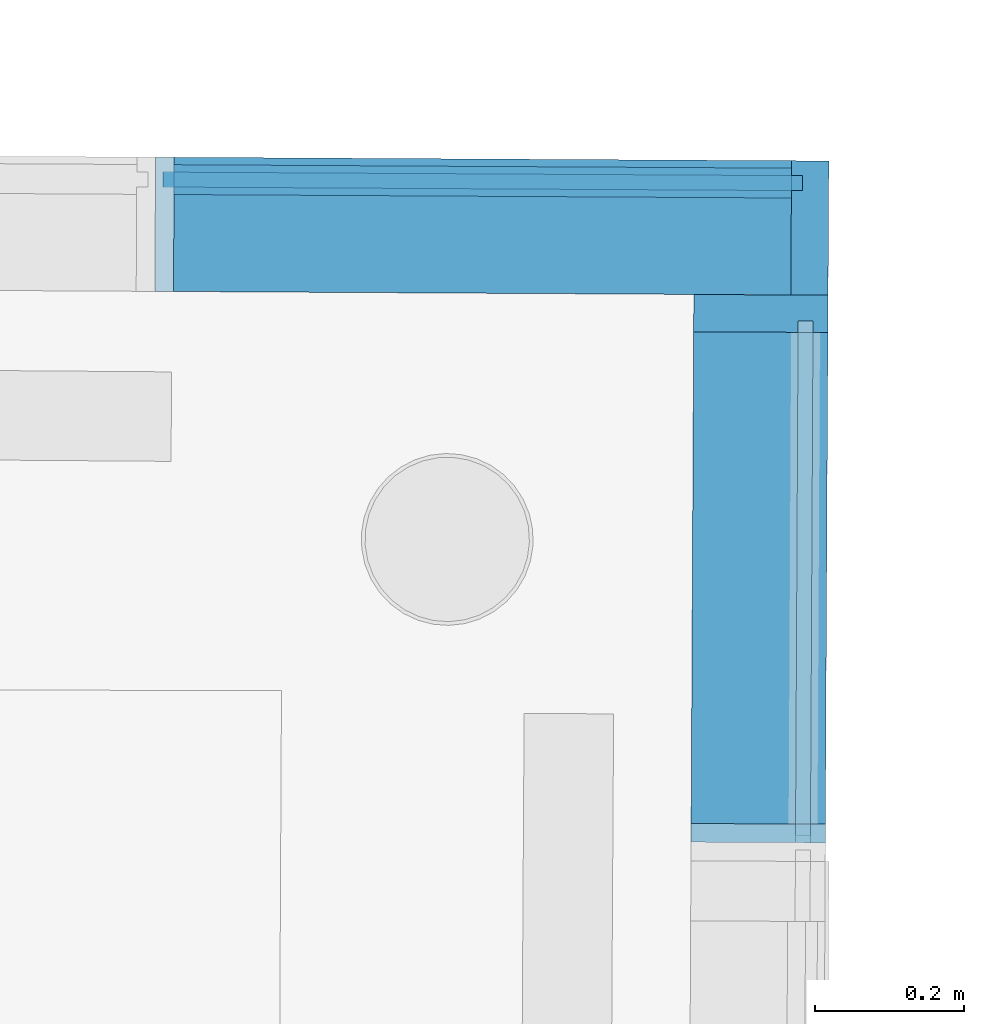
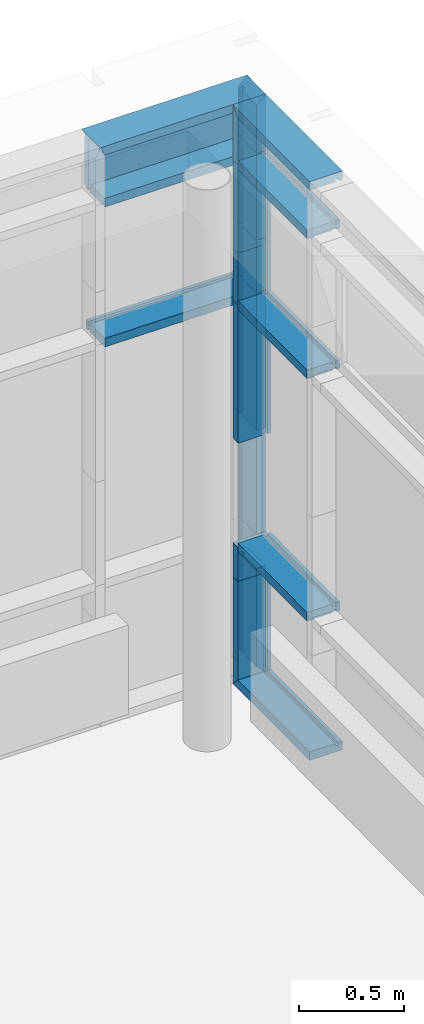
# One storey, part 185 of 196: 22 building element parts, 2 elements without a shape of their own.
"""IFC2X3 building model written with IfcOpenShell, lengths in metres."""

import ifcopenshell
import ifcopenshell.guid

model = None  # the IFC model being written
_history = None  # IfcOwnerHistory: only IFC2X3 demands one
_inside = {}  # id of a spatial element -> (the spatial element, [elements in it])
_under = {}  # id of a project, library or spatial element -> (it, [spatial elements below it])
_declared = {}  # id of a project -> (the project, [libraries it declares])
_typed = {}  # id of a type object -> (the type object, [elements of that type])
_made_of = {}  # id of a material, layer set ... -> (it, [elements and type objects made of it])


def new_model(schema):
    """Start an empty IFC model of exactly this schema.

    Asked for "IFC4X3", IfcOpenShell would pick the latest addendum, in which some entities
    have other attributes; the version numbers below select the first issue.
    IFC2X3 requires an IfcOwnerHistory on every rooted entity: one is made here for all.
    """
    global model, _history
    if schema == "IFC4X3":
        model = ifcopenshell.file(schema_version=(4, 3, 0, 0))
    else:
        model = ifcopenshell.file(schema=schema)
    _inside.clear()
    _under.clear()
    _declared.clear()
    _typed.clear()
    _made_of.clear()
    _history = None
    if model.schema == "IFC2X3":
        org = make("IfcOrganization", Name="unknown")
        user = make(
            "IfcPersonAndOrganization",
            ThePerson=make("IfcPerson", FamilyName="unknown"),
            TheOrganization=org,
        )
        app = make(
            "IfcApplication",
            ApplicationDeveloper=org,
            Version="unknown",
            ApplicationFullName="unknown",
            ApplicationIdentifier="unknown",
        )
        _history = make(
            "IfcOwnerHistory",
            OwningUser=user,
            OwningApplication=app,
            ChangeAction="ADDED",
            CreationDate=0,
        )
    return model


def make(cls, **values):
    """One entity of the class cls with the attributes given. An attribute that is None is left unset."""
    return model.create_entity(
        cls, **{name: value for name, value in values.items() if value is not None}
    )


def entity(cls, *values):
    """Any entity or typed value of the class cls, its attributes in the order of the schema. None: left unset."""
    e = model.create_entity(cls)
    for i, value in enumerate(values):
        if value is not None:
            e[i] = value
    return e


def rooted(cls, **values):
    """An entity with a GlobalId (a new one), such as an element, a storey or a relation."""
    return make(cls, GlobalId=ifcopenshell.guid.new(), OwnerHistory=_history, **values)


def si_unit(unit_type, name, prefix=None):
    """IfcSIUnit, for example si_unit("LENGTHUNIT", "METRE", prefix="MILLI")."""
    return make("IfcSIUnit", UnitType=unit_type, Prefix=prefix, Name=name)


def converted_unit(unit_type, name, factor, base, dimensions=None, offset=None):
    """IfcConversionBasedUnit, such as the inch: factor (a typed value) times the base unit."""
    return make(
        "IfcConversionBasedUnit"
        if offset is None
        else "IfcConversionBasedUnitWithOffset",
        ConversionOffset=offset,
        Dimensions=None
        if dimensions is None
        else entity("IfcDimensionalExponents", *dimensions),
        UnitType=unit_type,
        Name=name,
        ConversionFactor=make(
            "IfcMeasureWithUnit", ValueComponent=factor, UnitComponent=base
        ),
    )


def derived_unit(unit_type, elements):
    """IfcDerivedUnit: a product of units, each with its exponent."""
    return make(
        "IfcDerivedUnit",
        Elements=[
            make("IfcDerivedUnitElement", Unit=unit, Exponent=power)
            for unit, power in elements
        ],
        UnitType=unit_type,
    )


def money_unit(currency):
    """IfcMonetaryUnit."""
    return make("IfcMonetaryUnit", Currency=currency)


def assignment(units):
    """IfcUnitAssignment: the units of a project."""
    return None if units is None else make("IfcUnitAssignment", Units=units)


def point(xyz):
    """IfcCartesianPoint."""
    return None if xyz is None else make("IfcCartesianPoint", Coordinates=xyz)


def direction(xyz):
    """IfcDirection."""
    return None if xyz is None else make("IfcDirection", DirectionRatios=xyz)


def frame(location, z_axis=None, x_axis=None):
    """IfcAxis2Placement3D, a coordinate frame: its origin and axes. An axis left out is left unset."""
    return make(
        "IfcAxis2Placement3D",
        Location=point(location),
        Axis=direction(z_axis),
        RefDirection=direction(x_axis),
    )


def origin_with_axes():
    """The frame at (0, 0, 0) with the z axis (0, 0, 1) and the x axis (1, 0, 0) written out."""
    return frame((0.0, 0.0, 0.0), z_axis=(0.0, 0.0, 1.0), x_axis=(1.0, 0.0, 0.0))


def place(relative_to, where):
    """IfcLocalPlacement: puts the frame where relative to a parent placement (None: the world)."""
    return make(
        "IfcLocalPlacement", PlacementRelTo=relative_to, RelativePlacement=where
    )


def context(
    kind, dimensions, precision=None, world=None, true_north=None, identifier=None
):
    """IfcGeometricRepresentationContext, for example the 3D "Model" context."""
    return make(
        "IfcGeometricRepresentationContext",
        ContextIdentifier=identifier,
        ContextType=kind,
        CoordinateSpaceDimension=dimensions,
        Precision=precision,
        WorldCoordinateSystem=world,
        TrueNorth=true_north,
    )


def subcontext(parent, identifier, kind, view, scale=None):
    """IfcGeometricRepresentationSubContext, for example "Body" below "Model"."""
    return make(
        "IfcGeometricRepresentationSubContext",
        ContextIdentifier=identifier,
        ContextType=kind,
        ParentContext=parent,
        TargetScale=scale,
        TargetView=view,
    )


def project(units=None, contexts=None):
    """IfcProject with its units and contexts."""
    return rooted(
        "IfcProject",
        Name="project",
        RepresentationContexts=contexts,
        UnitsInContext=assignment(units),
    )


def spatial(cls, under=None, at=None, **own):
    """A site, building, storey or space (cls), placed at a placement, below another one or the project."""
    s = rooted(cls, ObjectPlacement=at, **own)
    if under is not None:
        _under.setdefault(under.id(), (under, []))[1].append(s)
    return s


def faces_of(points, faces, orient=None, outer=None):
    """IfcFace entities. A face is a list of loops; a loop is a list of indices into points, from 0.

    orient and outer hold one flag for each loop. By default every Orientation is true, the
    first loop of a face is its IfcFaceOuterBound and the others are IfcFaceBound.
    """
    made = []
    for i, loops in enumerate(faces):
        bounds = []
        for j, loop in enumerate(loops):
            is_outer = j == 0 if outer is None else outer[i][j]
            bounds.append(
                make(
                    "IfcFaceOuterBound" if is_outer else "IfcFaceBound",
                    Bound=make("IfcPolyLoop", Polygon=[points[k] for k in loop]),
                    Orientation=True if orient is None else orient[i][j],
                )
            )
        made.append(make("IfcFace", Bounds=bounds))
    return made


def faceted_brep(points, faces, orient=None, outer=None, voids=None):
    """IfcFacetedBrep: a solid bounded by flat faces; with voids (closed shells), ...WithVoids."""
    shared = [point(p) for p in points]
    hull = make("IfcClosedShell", CfsFaces=faces_of(shared, faces, orient, outer))
    if voids is None:
        return make("IfcFacetedBrep", Outer=hull)
    return make(
        "IfcFacetedBrepWithVoids",
        Outer=hull,
        Voids=[
            make(cls, CfsFaces=faces_of(shared, fs, o, b)) for cls, fs, o, b in voids
        ],
    )


def shape(context_of_items, identifier, shape_type, items):
    """IfcShapeRepresentation: the items that make up one representation, for example the "Body"."""
    return make(
        "IfcShapeRepresentation",
        ContextOfItems=context_of_items,
        RepresentationIdentifier=identifier,
        RepresentationType=shape_type,
        Items=items,
    )


def material(Name=None, Category=None):
    """IfcMaterial."""
    return make("IfcMaterial", Name=Name, Category=Category)


def made_of(thing, what):
    """Note that an element or type object is made of a material, layer set ...; save() writes the relation."""
    if what is not None:
        _made_of.setdefault(what.id(), (what, []))[1].append(thing)
    return thing


def type_object(cls, material=None, **own):
    """A type object (cls), such as IfcWallType, which elements share."""
    return made_of(rooted(cls, **own), material)


def element(
    cls,
    number,
    at=None,
    inside=None,
    cuts=None,
    type_object=None,
    material=None,
    context=None,
    identifier="Body",
    shape_type=None,
    held_by="IfcProductDefinitionShape",
    body=None,
    shapes=None,
    **own,
):
    """One element of the class cls, such as IfcWall. Its Tag is "e" and its number.

    at: its placement. inside: the storey or other place that contains it. cuts: it is an
    opening in that element (IfcRelVoidsElement). A single representation is given by context,
    identifier, shape_type and body (its items); several are given by shapes. held_by: the class
    of the entity that holds the representations. save() writes the other relations.
    """
    e = rooted(cls, Tag="e%d" % number, ObjectPlacement=at, **own)
    if body is not None:
        shapes = [shape(context, identifier, shape_type, body)]
    if shapes is not None:
        e.Representation = make(held_by, Representations=shapes)
    if inside is not None:
        _inside.setdefault(inside.id(), (inside, []))[1].append(e)
    if cuts is not None:
        rooted(
            "IfcRelVoidsElement", RelatingBuildingElement=cuts, RelatedOpeningElement=e
        )
    if type_object is not None:
        _typed.setdefault(type_object.id(), (type_object, []))[1].append(e)
    return made_of(e, material)


def aggregate(whole, parts):
    """IfcRelAggregates: a whole, such as a stair, and the parts it consists of."""
    return rooted("IfcRelAggregates", RelatingObject=whole, RelatedObjects=parts)


def save(model, path):
    """Write the relations noted so far, then the file.

    IfcRelAggregates (storeys below a building ...), IfcRelContainedInSpatialStructure (elements
    in a storey), IfcRelDefinesByType, IfcRelAssociatesMaterial and IfcRelDeclares: one each for
    every whole, place, type object, material and project.
    """
    for whole, parts in _under.values():
        aggregate(whole, parts)
    for where, things in _inside.values():
        rooted(
            "IfcRelContainedInSpatialStructure",
            RelatedElements=things,
            RelatingStructure=where,
        )
    for kind, things in _typed.values():
        rooted("IfcRelDefinesByType", RelatedObjects=things, RelatingType=kind)
    for what, things in _made_of.values():
        rooted("IfcRelAssociatesMaterial", RelatedObjects=things, RelatingMaterial=what)
    for by, libraries in _declared.values():
        rooted("IfcRelDeclares", RelatingContext=by, RelatedDefinitions=libraries)
    model.write(path)


model = new_model("IFC2X3")

# Units and contexts
model_context = context("Model", 3, precision=1e-05, world=origin_with_axes(), true_north=direction((0.0, 1.0)))
body_context = subcontext(model_context, "Body", "Model", "MODEL_VIEW")
ifc_project = project(units=[si_unit("LENGTHUNIT", "METRE"), si_unit("AREAUNIT", "SQUARE_METRE"), si_unit("VOLUMEUNIT", "CUBIC_METRE"), converted_unit("PLANEANGLEUNIT", "DEGREE", entity("IfcPlaneAngleMeasure", 0.0174532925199), si_unit("PLANEANGLEUNIT", "RADIAN"), dimensions=[0, 0, 0, 0, 0, 0, 0]), money_unit("EUR"), converted_unit("TIMEUNIT", "Year", entity("IfcTimeMeasure", 31556926.0), si_unit("TIMEUNIT", "SECOND"), dimensions=[0, 0, 1, 0, 0, 0, 0]), si_unit("MASSUNIT", "GRAM", prefix="KILO"), si_unit("THERMODYNAMICTEMPERATUREUNIT", "DEGREE_CELSIUS"), si_unit("LUMINOUSINTENSITYUNIT", "LUMEN"), si_unit("ENERGYUNIT", "JOULE", prefix="MEGA"), derived_unit("THERMALCONDUCTANCEUNIT", [(si_unit("POWERUNIT", "WATT"), 1), (si_unit("LENGTHUNIT", "METRE"), -1), (si_unit("THERMODYNAMICTEMPERATUREUNIT", "KELVIN"), -1)]), derived_unit("SPECIFICHEATCAPACITYUNIT", [(si_unit("ENERGYUNIT", "JOULE"), 1), (si_unit("MASSUNIT", "GRAM", prefix="KILO"), -1), (si_unit("THERMODYNAMICTEMPERATUREUNIT", "KELVIN"), -1)]), derived_unit("MASSDENSITYUNIT", [(si_unit("MASSUNIT", "GRAM", prefix="KILO"), 1), (si_unit("VOLUMEUNIT", "CUBIC_METRE"), -1)])], contexts=[model_context])

# Site, building, storey
site_placement = place(None, origin_with_axes())
site = spatial("IfcSite", under=ifc_project, at=site_placement, Name="Gelände", CompositionType="ELEMENT")
building_placement = place(site_placement, origin_with_axes())
building = spatial("IfcBuilding", under=site, at=building_placement, Name="Gebäude", CompositionType="ELEMENT")
storey_placement = place(building_placement, frame((0.0, 0.0, -3.0), z_axis=(0.0, 0.0, 1.0), x_axis=(1.0, 0.0, 0.0)))
storey = spatial("IfcBuildingStorey", under=building, at=storey_placement, Name="KELLERGESCHOSS", CompositionType="ELEMENT", Elevation=-3.0)

# Proxy, building element parts
building_element_proxy_type = type_object("IfcBuildingElementProxyType", Name="Fassadentyp", PredefinedType="NOTDEFINED")
proxy_1_placement = place(storey_placement, frame((9.16160365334, 37.7476945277, 0.610000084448), z_axis=(0.0, 0.0, 1.0), x_axis=(1.0, 0.0, 0.0)))
proxy_1 = element("IfcBuildingElementProxy", 1, at=proxy_1_placement, inside=storey, type_object=building_element_proxy_type, Name="Fassade-002")
ifc_material_1 = material(Name="53_Metall, Aluminium")
building_element_part_1_placement = place(proxy_1_placement, origin_with_axes())
building_element_part_1 = element("IfcBuildingElementPart", 2, at=building_element_part_1_placement, material=ifc_material_1, Name="53_Metall, Aluminium", context=body_context, shape_type="Brep", body=[
    faceted_brep([(0.0301624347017, 7.92289881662, 3.31499994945), (0.0300863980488, 7.90789900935, 3.29999994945), (-0.109911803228, 7.90860868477, 3.29999994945), (-0.109658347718, 7.95860804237, 3.34999994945), (0.0703393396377, 7.95769560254, 3.34999994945), (0.0700858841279, 7.90769624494, 3.29999994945), (0.0500861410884, 7.90779762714, 3.29999994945), (0.0501621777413, 7.92279743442, 3.31499994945), (0.0266172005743, 7.22352783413, 3.31499994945), (0.0266172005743, 7.22352783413, 3.29999994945), (-0.113381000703, 7.22423750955, 3.29999994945), (-0.113381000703, 7.22423750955, 3.34999994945), (0.0666166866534, 7.22332506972, 3.34999994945), (0.0666166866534, 7.22332506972, 3.29999994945), (0.0466169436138, 7.22342645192, 3.29999994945), (0.0466169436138, 7.22342645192, 3.31499994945)], [[[0, 1, 2, 3, 4, 5, 6, 7]], [[0, 8, 9, 1]], [[9, 10, 2, 1]], [[10, 11, 3, 2]], [[11, 12, 4, 3]], [[12, 13, 5, 4]], [[6, 5, 13, 14]], [[14, 15, 7, 6]], [[7, 15, 8, 0]], [[8, 15, 14, 13, 12, 11, 10, 9]]]),
])
building_element_part_2_placement = place(proxy_1_placement, origin_with_axes())
building_element_part_2 = element("IfcBuildingElementPart", 3, at=building_element_part_2_placement, material=ifc_material_1, Name="53_Metall, Aluminium", context=body_context, shape_type="Brep", body=[
    faceted_brep([(0.0300863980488, 7.90789900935, 0.807169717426), (0.0300863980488, 7.90789900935, 0.792169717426), (-0.109911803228, 7.90860868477, 0.792169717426), (-0.109911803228, 7.90860868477, 0.842169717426), (0.0300863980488, 7.90789900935, 0.842169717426), (0.0300863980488, 7.90789900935, 0.827169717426), (0.0500861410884, 7.90779762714, 0.827169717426), (0.0500861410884, 7.90779762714, 0.842169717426), (0.0700858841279, 7.90769624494, 0.842169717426), (0.0700858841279, 7.90769624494, 0.792169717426), (0.0500861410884, 7.90779762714, 0.792169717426), (0.0500861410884, 7.90779762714, 0.807169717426), (0.0267439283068, 7.24852750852, 0.807169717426), (0.0267439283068, 7.24852750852, 0.792169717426), (-0.113254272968, 7.24923718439, 0.792169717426), (-0.113254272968, 7.24923718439, 0.842169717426), (0.0267439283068, 7.24852750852, 0.842169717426), (0.0267439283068, 7.24852750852, 0.827169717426), (0.0467436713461, 7.24842612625, 0.827169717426), (0.0467436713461, 7.24842612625, 0.842169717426), (0.0667434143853, 7.24832474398, 0.842169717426), (0.0667434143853, 7.24832474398, 0.792169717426), (0.0467436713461, 7.24842612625, 0.792169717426), (0.0467436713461, 7.24842612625, 0.807169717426)], [[[0, 1, 2, 3, 4, 5, 6, 7, 8, 9, 10, 11]], [[1, 0, 12, 13]], [[1, 13, 14, 2]], [[2, 14, 15, 3]], [[4, 3, 15, 16]], [[4, 16, 17, 5]], [[5, 17, 18, 6]], [[7, 6, 18, 19]], [[19, 20, 8, 7]], [[8, 20, 21, 9]], [[22, 10, 9, 21]], [[11, 10, 22, 23]], [[0, 11, 23, 12]], [[23, 22, 21, 20, 19, 18, 17, 16, 15, 14, 13, 12]]]),
])
building_element_part_3_placement = place(proxy_1_placement, origin_with_axes())
building_element_part_3 = element("IfcBuildingElementPart", 4, at=building_element_part_3_placement, material=ifc_material_1, Name="53_Metall, Aluminium", context=body_context, shape_type="Brep", body=[
    faceted_brep([(0.0301624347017, 7.92289881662, 3.31499994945), (0.0501621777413, 7.92279743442, 3.31499994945), (0.0500861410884, 7.90779762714, 3.29999994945), (0.0700858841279, 7.90769624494, 3.29999994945), (0.0703393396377, 7.95769560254, 3.34999994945), (-0.109658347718, 7.95860804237, 3.34999994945), (-0.109911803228, 7.90860868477, 3.29999994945), (0.0300863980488, 7.90789900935, 3.29999994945), (0.0301624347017, 7.92289881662, 3.02949642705), (0.0501621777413, 7.92279743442, 3.02949642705), (0.0500861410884, 7.90779762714, 3.02949642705), (0.0700858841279, 7.90769624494, 3.02949642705), (0.0703393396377, 7.95769560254, 3.02949642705), (-0.109658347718, 7.95860804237, 3.02949642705), (-0.109911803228, 7.90860868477, 3.02949642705), (0.0300863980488, 7.90789900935, 3.02949642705)], [[[0, 1, 2, 3, 4, 5, 6, 7]], [[1, 0, 8, 9]], [[10, 2, 1, 9]], [[2, 10, 11, 3]], [[12, 4, 3, 11]], [[13, 5, 4, 12]], [[14, 6, 5, 13]], [[15, 7, 6, 14]], [[0, 7, 15, 8]], [[8, 15, 14, 13, 12, 11, 10, 9]]]),
])
building_element_part_4_placement = place(proxy_1_placement, origin_with_axes())
building_element_part_4 = element("IfcBuildingElementPart", 5, at=building_element_part_4_placement, material=ifc_material_1, Name="53_Metall, Aluminium", context=body_context, shape_type="Brep", body=[
    faceted_brep([(0.0301624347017, 7.92289881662, 0.0349999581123), (0.0501621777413, 7.92279743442, 0.0349999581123), (0.0500861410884, 7.90779762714, 0.0499999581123), (0.0700858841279, 7.90769624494, 0.0499999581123), (0.0703393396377, 7.95769560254, -4.18876591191e-08), (-0.109658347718, 7.95860804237, -4.18876591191e-08), (-0.109911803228, 7.90860868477, 0.0499999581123), (0.0300863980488, 7.90789900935, 0.0499999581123), (0.026617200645, 7.22352784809, 0.0349999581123), (0.0466169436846, 7.22342646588, 0.0349999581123), (0.0466169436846, 7.22342646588, 0.0499999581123), (0.0666166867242, 7.22332508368, 0.0499999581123), (0.0666166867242, 7.22332508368, -4.18876591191e-08), (-0.113381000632, 7.22423752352, -4.18876591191e-08), (-0.113381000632, 7.22423752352, 0.0499999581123), (0.026617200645, 7.22352784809, 0.0499999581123)], [[[0, 1, 2, 3, 4, 5, 6, 7]], [[1, 0, 8, 9]], [[10, 2, 1, 9]], [[2, 10, 11, 3]], [[12, 4, 3, 11]], [[13, 5, 4, 12]], [[14, 6, 5, 13]], [[15, 7, 6, 14]], [[0, 7, 15, 8]], [[8, 15, 14, 13, 12, 11, 10, 9]]]),
])
building_element_part_5_placement = place(proxy_1_placement, origin_with_axes())
building_element_part_5 = element("IfcBuildingElementPart", 6, at=building_element_part_5_placement, material=ifc_material_1, Name="53_Metall, Aluminium", context=body_context, shape_type="Brep", body=[
    faceted_brep([(0.0301624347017, 7.92289881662, 0.619999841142), (0.0501621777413, 7.92279743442, 0.619999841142), (0.0500861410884, 7.90779762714, 0.619999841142), (0.0700858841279, 7.90769624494, 0.619999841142), (0.0703393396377, 7.95769560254, 0.619999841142), (-0.109658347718, 7.95860804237, 0.619999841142), (-0.109911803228, 7.90860868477, 0.619999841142), (0.0300863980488, 7.90789900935, 0.619999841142), (0.0301624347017, 7.92289881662, 0.0349999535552), (0.0501621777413, 7.92279743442, 0.0349999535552), (0.0500861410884, 7.90779762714, 0.0499999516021), (0.0700858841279, 7.90769624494, 0.0499999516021), (0.0703393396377, 7.95769560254, -4.18876591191e-08), (-0.109658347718, 7.95860804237, -4.18876591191e-08), (-0.109911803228, 7.90860868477, 0.0499999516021), (0.0300863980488, 7.90789900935, 0.0499999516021)], [[[0, 1, 2, 3, 4, 5, 6, 7]], [[1, 0, 8, 9]], [[10, 2, 1, 9]], [[2, 10, 11, 3]], [[4, 3, 11, 12]], [[5, 4, 12, 13]], [[6, 5, 13, 14]], [[15, 7, 6, 14]], [[0, 7, 15, 8]], [[8, 15, 14, 13, 12, 11, 10, 9]]]),
])
building_element_part_6_placement = place(proxy_1_placement, origin_with_axes())
building_element_part_6 = element("IfcBuildingElementPart", 7, at=building_element_part_6_placement, material=ifc_material_1, Name="53_Metall, Aluminium", context=body_context, shape_type="Brep", body=[
    faceted_brep([(0.0301624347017, 7.92289881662, 0.817169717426), (0.0501621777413, 7.92279743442, 0.817169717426), (0.0500861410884, 7.90779762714, 0.817169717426), (0.0700858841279, 7.90769624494, 0.817169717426), (0.0703393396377, 7.95769560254, 0.817169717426), (-0.109658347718, 7.95860804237, 0.817169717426), (-0.109911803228, 7.90860868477, 0.817169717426), (0.0300863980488, 7.90789900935, 0.817169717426), (0.0301624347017, 7.92289881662, 0.619999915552), (0.0501621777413, 7.92279743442, 0.619999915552), (0.0500861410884, 7.90779762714, 0.619999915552), (0.0700858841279, 7.90769624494, 0.619999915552), (0.0703393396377, 7.95769560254, 0.619999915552), (-0.109658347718, 7.95860804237, 0.619999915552), (-0.109911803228, 7.90860868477, 0.619999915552), (0.0300863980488, 7.90789900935, 0.619999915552)], [[[0, 1, 2, 3, 4, 5, 6, 7]], [[1, 0, 8, 9]], [[10, 2, 1, 9]], [[2, 10, 11, 3]], [[12, 4, 3, 11]], [[13, 5, 4, 12]], [[14, 6, 5, 13]], [[15, 7, 6, 14]], [[0, 7, 15, 8]], [[8, 15, 14, 13, 12, 11, 10, 9]]]),
])
building_element_part_7_placement = place(proxy_1_placement, origin_with_axes())
building_element_part_7 = element("IfcBuildingElementPart", 8, at=building_element_part_7_placement, material=ifc_material_1, Name="53_Metall, Aluminium", context=body_context, shape_type="Brep", body=[
    faceted_brep([(0.0301624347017, 7.92289881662, 2.51999991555), (0.0501621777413, 7.92279743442, 2.51999991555), (0.0500861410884, 7.90779762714, 2.51999991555), (0.0700858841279, 7.90769624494, 2.51999991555), (0.0703393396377, 7.95769560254, 2.51999991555), (-0.109658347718, 7.95860804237, 2.51999991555), (-0.109911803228, 7.90860868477, 2.51999991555), (0.0300863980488, 7.90789900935, 2.51999991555), (0.0301624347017, 7.92289881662, 2.21916310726), (0.0501621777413, 7.92279743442, 2.21916310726), (0.0500861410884, 7.90779762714, 2.21916310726), (0.0700858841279, 7.90769624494, 2.21916310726), (0.0703393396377, 7.95769560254, 2.21916310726), (-0.109658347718, 7.95860804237, 2.21916310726), (-0.109911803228, 7.90860868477, 2.21916310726), (0.0300863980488, 7.90789900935, 2.21916310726)], [[[0, 1, 2, 3, 4, 5, 6, 7]], [[1, 0, 8, 9]], [[10, 2, 1, 9]], [[2, 10, 11, 3]], [[12, 4, 3, 11]], [[13, 5, 4, 12]], [[14, 6, 5, 13]], [[15, 7, 6, 14]], [[0, 7, 15, 8]], [[8, 15, 14, 13, 12, 11, 10, 9]]]),
])
building_element_part_8_placement = place(proxy_1_placement, origin_with_axes())
building_element_part_8 = element("IfcBuildingElementPart", 9, at=building_element_part_8_placement, material=ifc_material_1, Name="53_Metall, Aluminium", context=body_context, shape_type="Brep", body=[
    faceted_brep([(0.0300863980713, 7.90789901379, 3.01949642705), (0.0300863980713, 7.90789901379, 3.00449642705), (-0.109911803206, 7.90860868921, 3.00449642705), (-0.109911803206, 7.90860868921, 3.05449642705), (0.0300863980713, 7.90789901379, 3.05449642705), (0.0300863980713, 7.90789901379, 3.03949642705), (0.0500861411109, 7.90779763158, 3.03949642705), (0.0500861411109, 7.90779763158, 3.05449642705), (0.0700858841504, 7.90769624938, 3.05449642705), (0.0700858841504, 7.90769624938, 3.00449642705), (0.0500861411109, 7.90779763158, 3.00449642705), (0.0500861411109, 7.90779763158, 3.01949642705), (0.0267439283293, 7.24852751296, 3.01949642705), (0.0267439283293, 7.24852751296, 3.00449642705), (-0.113254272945, 7.24923718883, 3.00449642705), (-0.113254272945, 7.24923718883, 3.05449642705), (0.0267439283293, 7.24852751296, 3.05449642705), (0.0267439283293, 7.24852751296, 3.03949642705), (0.0467436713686, 7.24842613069, 3.03949642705), (0.0467436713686, 7.24842613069, 3.05449642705), (0.0667434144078, 7.24832474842, 3.05449642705), (0.0667434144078, 7.24832474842, 3.00449642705), (0.0467436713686, 7.24842613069, 3.00449642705), (0.0467436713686, 7.24842613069, 3.01949642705)], [[[0, 1, 2, 3, 4, 5, 6, 7, 8, 9, 10, 11]], [[1, 0, 12, 13]], [[1, 13, 14, 2]], [[2, 14, 15, 3]], [[4, 3, 15, 16]], [[4, 16, 17, 5]], [[5, 17, 18, 6]], [[7, 6, 18, 19]], [[19, 20, 8, 7]], [[8, 20, 21, 9]], [[22, 10, 9, 21]], [[11, 10, 22, 23]], [[0, 11, 23, 12]], [[23, 22, 21, 20, 19, 18, 17, 16, 15, 14, 13, 12]]]),
])
building_element_part_9_placement = place(proxy_1_placement, origin_with_axes())
building_element_part_9 = element("IfcBuildingElementPart", 10, at=building_element_part_9_placement, material=ifc_material_1, Name="53_Metall, Aluminium", context=body_context, shape_type="Brep", body=[
    faceted_brep([(0.0301624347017, 7.92289881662, 3.02949642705), (0.0501621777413, 7.92279743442, 3.02949642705), (0.0500861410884, 7.90779762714, 3.02949642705), (0.0700858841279, 7.90769624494, 3.02949642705), (0.0703393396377, 7.95769560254, 3.02949642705), (-0.109658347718, 7.95860804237, 3.02949642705), (-0.109911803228, 7.90860868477, 3.02949642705), (0.0300863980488, 7.90789900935, 3.02949642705), (0.0301624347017, 7.92289881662, 2.51999991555), (0.0501621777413, 7.92279743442, 2.51999991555), (0.0500861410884, 7.90779762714, 2.51999991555), (0.0700858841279, 7.90769624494, 2.51999991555), (0.0703393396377, 7.95769560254, 2.51999991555), (-0.109658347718, 7.95860804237, 2.51999991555), (-0.109911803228, 7.90860868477, 2.51999991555), (0.0300863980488, 7.90789900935, 2.51999991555)], [[[0, 1, 2, 3, 4, 5, 6, 7]], [[1, 0, 8, 9]], [[10, 2, 1, 9]], [[2, 10, 11, 3]], [[12, 4, 3, 11]], [[13, 5, 4, 12]], [[14, 6, 5, 13]], [[15, 7, 6, 14]], [[0, 7, 15, 8]], [[8, 15, 14, 13, 12, 11, 10, 9]]]),
])
building_element_part_10_placement = place(proxy_1_placement, origin_with_axes())
building_element_part_10 = element("IfcBuildingElementPart", 11, at=building_element_part_10_placement, material=ifc_material_1, Name="53_Metall, Aluminium", context=body_context, shape_type="Brep", body=[
    faceted_brep([(0.0300863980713, 7.90789901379, 2.20916310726), (0.0300863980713, 7.90789901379, 2.19416310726), (-0.109911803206, 7.90860868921, 2.19416310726), (-0.109911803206, 7.90860868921, 2.24416310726), (0.0300863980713, 7.90789901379, 2.24416310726), (0.0300863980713, 7.90789901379, 2.22916310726), (0.0500861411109, 7.90779763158, 2.22916310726), (0.0500861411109, 7.90779763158, 2.24416310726), (0.0700858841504, 7.90769624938, 2.24416310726), (0.0700858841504, 7.90769624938, 2.19416310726), (0.0500861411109, 7.90779763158, 2.19416310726), (0.0500861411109, 7.90779763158, 2.20916310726), (0.0267439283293, 7.24852751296, 2.20916310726), (0.0267439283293, 7.24852751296, 2.19416310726), (-0.113254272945, 7.24923718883, 2.19416310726), (-0.113254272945, 7.24923718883, 2.24416310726), (0.0267439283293, 7.24852751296, 2.24416310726), (0.0267439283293, 7.24852751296, 2.22916310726), (0.0467436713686, 7.24842613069, 2.22916310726), (0.0467436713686, 7.24842613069, 2.24416310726), (0.0667434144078, 7.24832474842, 2.24416310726), (0.0667434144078, 7.24832474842, 2.19416310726), (0.0467436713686, 7.24842613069, 2.19416310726), (0.0467436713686, 7.24842613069, 2.20916310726)], [[[0, 1, 2, 3, 4, 5, 6, 7, 8, 9, 10, 11]], [[1, 0, 12, 13]], [[1, 13, 14, 2]], [[2, 14, 15, 3]], [[4, 3, 15, 16]], [[4, 16, 17, 5]], [[5, 17, 18, 6]], [[7, 6, 18, 19]], [[19, 20, 8, 7]], [[8, 20, 21, 9]], [[22, 10, 9, 21]], [[11, 10, 22, 23]], [[0, 11, 23, 12]], [[23, 22, 21, 20, 19, 18, 17, 16, 15, 14, 13, 12]]]),
])
building_element_part_11_placement = place(proxy_1_placement, origin_with_axes())
building_element_part_11 = element("IfcBuildingElementPart", 12, at=building_element_part_11_placement, material=ifc_material_1, Name="53_Metall, Aluminium", context=body_context, shape_type="Brep", body=[
    faceted_brep([(0.0301624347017, 7.92289881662, 2.21916310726), (0.0501621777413, 7.92279743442, 2.21916310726), (0.0500861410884, 7.90779762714, 2.21916310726), (0.0700858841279, 7.90769624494, 2.21916310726), (0.0703393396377, 7.95769560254, 2.21916310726), (-0.109658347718, 7.95860804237, 2.21916310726), (-0.109911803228, 7.90860868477, 2.21916310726), (0.0300863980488, 7.90789900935, 2.21916310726), (0.0301624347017, 7.92289881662, 1.41999991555), (0.0501621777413, 7.92279743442, 1.41999991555), (0.0500861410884, 7.90779762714, 1.41999991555), (0.0700858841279, 7.90769624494, 1.41999991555), (0.0703393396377, 7.95769560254, 1.41999991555), (-0.109658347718, 7.95860804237, 1.41999991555), (-0.109911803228, 7.90860868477, 1.41999991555), (0.0300863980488, 7.90789900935, 1.41999991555)], [[[0, 1, 2, 3, 4, 5, 6, 7]], [[1, 0, 8, 9]], [[10, 2, 1, 9]], [[2, 10, 11, 3]], [[12, 4, 3, 11]], [[13, 5, 4, 12]], [[14, 6, 5, 13]], [[15, 7, 6, 14]], [[0, 7, 15, 8]], [[8, 15, 14, 13, 12, 11, 10, 9]]]),
])
aggregate(proxy_1, [building_element_part_1, building_element_part_2, building_element_part_3, building_element_part_4, building_element_part_5, building_element_part_6, building_element_part_7, building_element_part_8, building_element_part_9, building_element_part_10, building_element_part_11])

proxy_2_placement = place(storey_placement, frame((8.78139895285, 45.8579301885, 0.610000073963), z_axis=(0.0, 0.0, 1.0), x_axis=(1.0, 0.0, 0.0)))
proxy_2 = element("IfcBuildingElementProxy", 13, at=proxy_2_placement, inside=storey, type_object=building_element_proxy_type, Name="Fassade-002")
ifc_material_2 = material(Name="45_Glas, Normalglas")
building_element_part_12_placement = place(proxy_2_placement, origin_with_axes())
building_element_part_12 = element("IfcBuildingElementPart", 14, at=building_element_part_12_placement, material=ifc_material_2, Name="45_Glas, Normalglas", context=body_context, shape_type="Brep", body=[
    faceted_brep([(-0.441501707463, -0.0175135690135, 3.31500001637), (0.4162768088, -0.0223449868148, 3.31500001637), (0.416502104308, 0.0176543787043, 3.31500001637), (-0.441276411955, 0.0224857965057, 3.31500001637), (-0.441501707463, -0.0175135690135, 3.03359914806), (0.4162768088, -0.0223449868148, 3.03359914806), (0.416502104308, 0.0176543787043, 3.03359914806), (-0.441276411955, 0.0224857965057, 3.03359914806)], [[[0, 1, 2, 3]], [[0, 4, 5, 1]], [[1, 5, 6, 2]], [[3, 2, 6, 7]], [[4, 0, 3, 7]], [[5, 4, 7, 6]]]),
])
building_element_part_13_placement = place(proxy_2_placement, origin_with_axes())
building_element_part_13 = element("IfcBuildingElementPart", 15, at=building_element_part_13_placement, material=ifc_material_1, Name="53_Metall, Aluminium", context=body_context, shape_type="Brep", body=[
    faceted_brep([(0.416333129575, -0.0123451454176, 0.619999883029), (0.401333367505, -0.012260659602, 0.619999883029), (0.400544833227, -0.152258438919, 0.619999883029), (0.450544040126, -0.152540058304, 0.619999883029), (0.451557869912, 0.027457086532, 0.619999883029), (0.401558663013, 0.0277387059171, 0.619999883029), (0.401446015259, 0.00773902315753, 0.619999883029), (0.416445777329, 0.00765453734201, 0.619999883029), (0.416333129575, -0.0123451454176, 0.0349999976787), (0.401333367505, -0.012260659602, 0.0499999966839), (0.400544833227, -0.152258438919, 0.0499999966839), (0.450544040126, -0.152540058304, 0.0), (0.451557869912, 0.027457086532, 0.0), (0.401558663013, 0.0277387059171, 0.0499999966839), (0.401446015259, 0.00773902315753, 0.0499999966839), (0.416445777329, 0.00765453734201, 0.0349999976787)], [[[0, 1, 2, 3, 4, 5, 6, 7]], [[0, 8, 9, 1]], [[9, 10, 2, 1]], [[2, 10, 11, 3]], [[3, 11, 12, 4]], [[4, 12, 13, 5]], [[6, 5, 13, 14]], [[14, 15, 7, 6]], [[7, 15, 8, 0]], [[8, 15, 14, 13, 12, 11, 10, 9]]]),
])
building_element_part_14_placement = place(proxy_2_placement, origin_with_axes())
building_element_part_14 = element("IfcBuildingElementPart", 16, at=building_element_part_14_placement, material=ifc_material_1, Name="53_Metall, Aluminium", context=body_context, shape_type="Brep", body=[
    faceted_brep([(0.416333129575, -0.0123451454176, 1.41999992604), (0.401333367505, -0.012260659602, 1.41999992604), (0.400544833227, -0.152258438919, 1.41999992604), (0.450544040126, -0.152540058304, 1.41999992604), (0.451557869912, 0.027457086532, 1.41999992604), (0.401558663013, 0.0277387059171, 1.41999992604), (0.401446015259, 0.00773902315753, 1.41999992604), (0.416445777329, 0.00765453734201, 1.41999992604), (0.416333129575, -0.0123451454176, 0.818683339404), (0.401333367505, -0.012260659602, 0.818683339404), (0.400544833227, -0.152258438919, 0.818683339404), (0.450544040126, -0.152540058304, 0.818683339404), (0.451557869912, 0.027457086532, 0.818683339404), (0.401558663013, 0.0277387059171, 0.818683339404), (0.401446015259, 0.00773902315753, 0.818683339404), (0.416445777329, 0.00765453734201, 0.818683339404)], [[[0, 1, 2, 3, 4, 5, 6, 7]], [[0, 8, 9, 1]], [[9, 10, 2, 1]], [[10, 11, 3, 2]], [[11, 12, 4, 3]], [[12, 13, 5, 4]], [[6, 5, 13, 14]], [[14, 15, 7, 6]], [[7, 15, 8, 0]], [[8, 15, 14, 13, 12, 11, 10, 9]]]),
])
building_element_part_15_placement = place(proxy_2_placement, origin_with_axes())
building_element_part_15 = element("IfcBuildingElementPart", 17, at=building_element_part_15_placement, material=ifc_material_1, Name="53_Metall, Aluminium", context=body_context, shape_type="Brep", body=[
    faceted_brep([(0.416333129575, -0.0123451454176, 2.51999992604), (0.401333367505, -0.012260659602, 2.51999992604), (0.400544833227, -0.152258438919, 2.51999992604), (0.450544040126, -0.152540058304, 2.51999992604), (0.451557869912, 0.027457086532, 2.51999992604), (0.401558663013, 0.0277387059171, 2.51999992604), (0.401446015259, 0.00773902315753, 2.51999992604), (0.416445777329, 0.00765453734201, 2.51999992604), (0.416333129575, -0.0123451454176, 2.21362976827), (0.401333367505, -0.012260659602, 2.21362976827), (0.400544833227, -0.152258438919, 2.21362976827), (0.450544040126, -0.152540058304, 2.21362976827), (0.451557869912, 0.027457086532, 2.21362976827), (0.401558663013, 0.0277387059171, 2.21362976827), (0.401446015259, 0.00773902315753, 2.21362976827), (0.416445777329, 0.00765453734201, 2.21362976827)], [[[0, 1, 2, 3, 4, 5, 6, 7]], [[0, 8, 9, 1]], [[9, 10, 2, 1]], [[10, 11, 3, 2]], [[11, 12, 4, 3]], [[12, 13, 5, 4]], [[6, 5, 13, 14]], [[14, 15, 7, 6]], [[7, 15, 8, 0]], [[8, 15, 14, 13, 12, 11, 10, 9]]]),
])
building_element_part_16_placement = place(proxy_2_placement, origin_with_axes())
building_element_part_16 = element("IfcBuildingElementPart", 18, at=building_element_part_16_placement, material=ifc_material_1, Name="53_Metall, Aluminium", context=body_context, shape_type="Brep", body=[
    faceted_brep([(0.416333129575, -0.0123451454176, 3.31500001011), (0.401333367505, -0.012260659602, 3.30000001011), (0.400544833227, -0.152258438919, 3.30000001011), (0.450544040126, -0.152540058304, 3.35000001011), (0.451557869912, 0.027457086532, 3.35000001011), (0.401558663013, 0.0277387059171, 3.30000001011), (0.401446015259, 0.00773902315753, 3.30000001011), (0.416445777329, 0.00765453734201, 3.31500001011), (0.416333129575, -0.0123451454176, 3.02359915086), (0.401333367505, -0.012260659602, 3.02359915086), (0.400544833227, -0.152258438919, 3.02359915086), (0.450544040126, -0.152540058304, 3.02359915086), (0.451557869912, 0.027457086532, 3.02359915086), (0.401558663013, 0.0277387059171, 3.02359915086), (0.401446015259, 0.00773902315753, 3.02359915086), (0.416445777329, 0.00765453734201, 3.02359915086)], [[[0, 1, 2, 3, 4, 5, 6, 7]], [[0, 8, 9, 1]], [[9, 10, 2, 1]], [[10, 11, 3, 2]], [[11, 12, 4, 3]], [[12, 13, 5, 4]], [[6, 5, 13, 14]], [[14, 15, 7, 6]], [[7, 15, 8, 0]], [[8, 15, 14, 13, 12, 11, 10, 9]]]),
])
building_element_part_17_placement = place(proxy_2_placement, origin_with_axes())
building_element_part_17 = element("IfcBuildingElementPart", 19, at=building_element_part_17_placement, material=ifc_material_1, Name="53_Metall, Aluminium", context=body_context, shape_type="Brep", body=[
    faceted_brep([(0.416333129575, -0.0123451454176, 3.02359915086), (0.401333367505, -0.012260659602, 3.02359915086), (0.400544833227, -0.152258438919, 3.02359915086), (0.450544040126, -0.152540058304, 3.02359915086), (0.451557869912, 0.027457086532, 3.02359915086), (0.401558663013, 0.0277387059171, 3.02359915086), (0.401446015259, 0.00773902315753, 3.02359915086), (0.416445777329, 0.00765453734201, 3.02359915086), (0.416333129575, -0.0123451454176, 2.51999992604), (0.401333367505, -0.012260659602, 2.51999992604), (0.400544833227, -0.152258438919, 2.51999992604), (0.450544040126, -0.152540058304, 2.51999992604), (0.451557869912, 0.027457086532, 2.51999992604), (0.401558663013, 0.0277387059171, 2.51999992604), (0.401446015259, 0.00773902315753, 2.51999992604), (0.416445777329, 0.00765453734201, 2.51999992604)], [[[0, 1, 2, 3, 4, 5, 6, 7]], [[0, 8, 9, 1]], [[9, 10, 2, 1]], [[10, 11, 3, 2]], [[11, 12, 4, 3]], [[12, 13, 5, 4]], [[6, 5, 13, 14]], [[14, 15, 7, 6]], [[7, 15, 8, 0]], [[8, 15, 14, 13, 12, 11, 10, 9]]]),
])
building_element_part_18_placement = place(proxy_2_placement, origin_with_axes())
building_element_part_18 = element("IfcBuildingElementPart", 20, at=building_element_part_18_placement, material=ifc_material_1, Name="53_Metall, Aluminium", context=body_context, shape_type="Brep", body=[
    faceted_brep([(0.416333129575, -0.0123451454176, 2.21362976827), (0.401333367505, -0.012260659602, 2.21362976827), (0.400544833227, -0.152258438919, 2.21362976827), (0.450544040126, -0.152540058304, 2.21362976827), (0.451557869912, 0.027457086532, 2.21362976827), (0.401558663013, 0.0277387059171, 2.21362976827), (0.401446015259, 0.00773902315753, 2.21362976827), (0.416445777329, 0.00765453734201, 2.21362976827), (0.416333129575, -0.0123451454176, 1.41999992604), (0.401333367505, -0.012260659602, 1.41999992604), (0.400544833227, -0.152258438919, 1.41999992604), (0.450544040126, -0.152540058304, 1.41999992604), (0.451557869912, 0.027457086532, 1.41999992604), (0.401558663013, 0.0277387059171, 1.41999992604), (0.401446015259, 0.00773902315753, 1.41999992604), (0.416445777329, 0.00765453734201, 1.41999992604)], [[[0, 1, 2, 3, 4, 5, 6, 7]], [[0, 8, 9, 1]], [[9, 10, 2, 1]], [[10, 11, 3, 2]], [[11, 12, 4, 3]], [[12, 13, 5, 4]], [[6, 5, 13, 14]], [[14, 15, 7, 6]], [[7, 15, 8, 0]], [[8, 15, 14, 13, 12, 11, 10, 9]]]),
])
building_element_part_19_placement = place(proxy_2_placement, origin_with_axes())
building_element_part_19 = element("IfcBuildingElementPart", 21, at=building_element_part_19_placement, material=ifc_material_1, Name="53_Metall, Aluminium", context=body_context, shape_type="Brep", body=[
    faceted_brep([(0.416333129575, -0.0123451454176, 0.818683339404), (0.401333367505, -0.012260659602, 0.818683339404), (0.400544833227, -0.152258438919, 0.818683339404), (0.450544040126, -0.152540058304, 0.818683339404), (0.451557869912, 0.027457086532, 0.818683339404), (0.401558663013, 0.0277387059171, 0.818683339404), (0.401446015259, 0.00773902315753, 0.818683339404), (0.416445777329, 0.00765453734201, 0.818683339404), (0.416333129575, -0.0123451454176, 0.619999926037), (0.401333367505, -0.012260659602, 0.619999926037), (0.400544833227, -0.152258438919, 0.619999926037), (0.450544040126, -0.152540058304, 0.619999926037), (0.451557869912, 0.027457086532, 0.619999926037), (0.401558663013, 0.0277387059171, 0.619999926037), (0.401446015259, 0.00773902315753, 0.619999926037), (0.416445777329, 0.00765453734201, 0.619999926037)], [[[0, 1, 2, 3, 4, 5, 6, 7]], [[0, 8, 9, 1]], [[9, 10, 2, 1]], [[10, 11, 3, 2]], [[11, 12, 4, 3]], [[12, 13, 5, 4]], [[6, 5, 13, 14]], [[14, 15, 7, 6]], [[7, 15, 8, 0]], [[8, 15, 14, 13, 12, 11, 10, 9]]]),
])
building_element_part_20_placement = place(proxy_2_placement, origin_with_axes())
building_element_part_20 = element("IfcBuildingElementPart", 22, at=building_element_part_20_placement, material=ifc_material_1, Name="53_Metall, Aluminium", context=body_context, shape_type="Brep", body=[
    faceted_brep([(-0.426445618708, -0.007598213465, 3.01359915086), (-0.426445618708, -0.007598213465, 2.99859915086), (-0.427234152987, -0.147595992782, 2.99859915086), (-0.427234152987, -0.147595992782, 3.04859915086), (-0.426445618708, -0.007598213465, 3.04859915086), (-0.426445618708, -0.007598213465, 3.03359915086), (-0.426332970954, 0.0124014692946, 3.03359915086), (-0.426332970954, 0.0124014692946, 3.04859915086), (-0.4262203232, 0.0324011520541, 3.04859915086), (-0.4262203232, 0.0324011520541, 2.99859915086), (-0.426332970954, 0.0124014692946, 2.99859915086), (-0.426332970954, 0.0124014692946, 3.01359915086), (0.401333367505, -0.012260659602, 3.01359915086), (0.401333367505, -0.012260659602, 2.99859915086), (0.400544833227, -0.152258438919, 2.99859915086), (0.400544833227, -0.152258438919, 3.04859915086), (0.401333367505, -0.012260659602, 3.04859915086), (0.401333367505, -0.012260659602, 3.03359915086), (0.401446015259, 0.00773902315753, 3.03359915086), (0.401446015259, 0.00773902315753, 3.04859915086), (0.401558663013, 0.0277387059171, 3.04859915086), (0.401558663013, 0.0277387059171, 2.99859915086), (0.401446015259, 0.00773902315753, 2.99859915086), (0.401446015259, 0.00773902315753, 3.01359915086)], [[[0, 1, 2, 3, 4, 5, 6, 7, 8, 9, 10, 11]], [[1, 0, 12, 13]], [[1, 13, 14, 2]], [[2, 14, 15, 3]], [[4, 3, 15, 16]], [[4, 16, 17, 5]], [[5, 17, 18, 6]], [[7, 6, 18, 19]], [[19, 20, 8, 7]], [[8, 20, 21, 9]], [[22, 10, 9, 21]], [[11, 10, 22, 23]], [[0, 11, 23, 12]], [[23, 22, 21, 20, 19, 18, 17, 16, 15, 14, 13, 12]]]),
])
building_element_part_21_placement = place(proxy_2_placement, origin_with_axes())
building_element_part_21 = element("IfcBuildingElementPart", 23, at=building_element_part_21_placement, material=ifc_material_1, Name="53_Metall, Aluminium", context=body_context, shape_type="Brep", body=[
    faceted_brep([(-0.426445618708, -0.007598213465, 2.20362976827), (-0.426445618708, -0.007598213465, 2.18862976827), (-0.427234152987, -0.147595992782, 2.18862976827), (-0.427234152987, -0.147595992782, 2.23862976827), (-0.426445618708, -0.007598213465, 2.23862976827), (-0.426445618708, -0.007598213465, 2.22362976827), (-0.426332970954, 0.0124014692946, 2.22362976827), (-0.426332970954, 0.0124014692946, 2.23862976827), (-0.4262203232, 0.0324011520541, 2.23862976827), (-0.4262203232, 0.0324011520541, 2.18862976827), (-0.426332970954, 0.0124014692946, 2.18862976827), (-0.426332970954, 0.0124014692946, 2.20362976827), (0.401333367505, -0.012260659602, 2.20362976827), (0.401333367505, -0.012260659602, 2.18862976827), (0.400544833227, -0.152258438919, 2.18862976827), (0.400544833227, -0.152258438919, 2.23862976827), (0.401333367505, -0.012260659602, 2.23862976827), (0.401333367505, -0.012260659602, 2.22362976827), (0.401446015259, 0.00773902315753, 2.22362976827), (0.401446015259, 0.00773902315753, 2.23862976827), (0.401558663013, 0.0277387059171, 2.23862976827), (0.401558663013, 0.0277387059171, 2.18862976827), (0.401446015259, 0.00773902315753, 2.18862976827), (0.401446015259, 0.00773902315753, 2.20362976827)], [[[0, 1, 2, 3, 4, 5, 6, 7, 8, 9, 10, 11]], [[1, 0, 12, 13]], [[1, 13, 14, 2]], [[2, 14, 15, 3]], [[4, 3, 15, 16]], [[4, 16, 17, 5]], [[5, 17, 18, 6]], [[7, 6, 18, 19]], [[19, 20, 8, 7]], [[8, 20, 21, 9]], [[22, 10, 9, 21]], [[11, 10, 22, 23]], [[0, 11, 23, 12]], [[23, 22, 21, 20, 19, 18, 17, 16, 15, 14, 13, 12]]]),
])
building_element_part_22_placement = place(proxy_2_placement, origin_with_axes())
building_element_part_22 = element("IfcBuildingElementPart", 24, at=building_element_part_22_placement, material=ifc_material_1, Name="53_Metall, Aluminium", context=body_context, shape_type="Brep", body=[
    faceted_brep([(-0.433945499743, -0.00755597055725, 3.31500001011), (-0.426445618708, -0.007598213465, 3.30000001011), (-0.427234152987, -0.147595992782, 3.30000001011), (-0.452233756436, -0.147455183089, 3.35000001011), (-0.45121992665, 0.0325419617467, 3.35000001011), (-0.4262203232, 0.0324011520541, 3.30000001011), (-0.426332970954, 0.0124014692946, 3.30000001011), (-0.433832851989, 0.0124437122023, 3.31500001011), (0.416333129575, -0.0123451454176, 3.31500001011), (0.401333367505, -0.012260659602, 3.30000001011), (0.400544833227, -0.152258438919, 3.30000001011), (0.450544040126, -0.152540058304, 3.35000001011), (0.451557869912, 0.027457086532, 3.35000001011), (0.401558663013, 0.0277387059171, 3.30000001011), (0.401446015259, 0.00773902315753, 3.30000001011), (0.416445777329, 0.00765453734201, 3.31500001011)], [[[0, 1, 2, 3, 4, 5, 6, 7]], [[0, 8, 9, 1]], [[9, 10, 2, 1]], [[2, 10, 11, 3]], [[3, 11, 12, 4]], [[4, 12, 13, 5]], [[6, 5, 13, 14]], [[14, 15, 7, 6]], [[7, 15, 8, 0]], [[8, 15, 14, 13, 12, 11, 10, 9]]]),
])
aggregate(proxy_2, [building_element_part_12, building_element_part_13, building_element_part_14, building_element_part_15, building_element_part_16, building_element_part_17, building_element_part_18, building_element_part_19, building_element_part_20, building_element_part_21, building_element_part_22])

save(model, "model.ifc")
